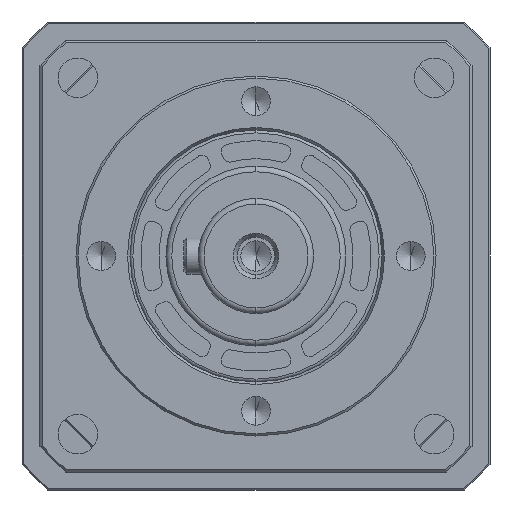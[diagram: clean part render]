
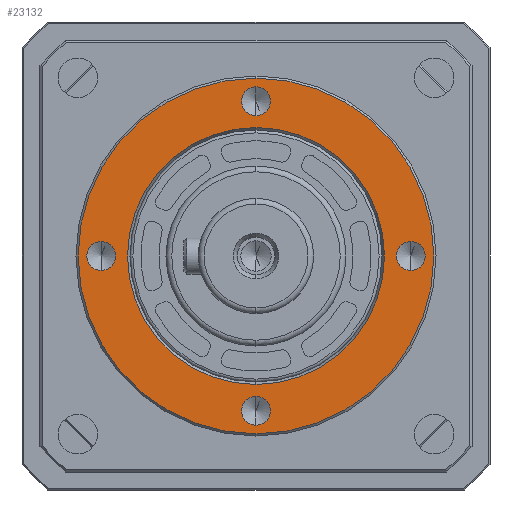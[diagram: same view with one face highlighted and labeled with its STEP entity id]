
A CAD part, left-side view. The second image highlights one B-rep face of the part: STEP entity #23132.
In plain terms, the highlighted planar face has unit normal (-1, 0, 0).
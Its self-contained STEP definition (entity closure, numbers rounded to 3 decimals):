
#176 = DIRECTION ( 'NONE',  ( 0., 0., 1. ) ) ;
#346 = DIRECTION ( 'NONE',  ( 0., 0., 1. ) ) ;
#467 = ORIENTED_EDGE ( 'NONE', *, *, #3664, .T. ) ;
#571 = CARTESIAN_POINT ( 'NONE',  ( -157., 0., 24.7 ) ) ;
#1081 = DIRECTION ( 'NONE',  ( -1., 0., 0. ) ) ;
#1199 = CIRCLE ( 'NONE', #2568, 2. ) ;
#1574 = VERTEX_POINT ( 'NONE', #9739 ) ;
#1722 = ORIENTED_EDGE ( 'NONE', *, *, #19967, .F. ) ;
#1727 = DIRECTION ( 'NONE',  ( 0., 0., 1. ) ) ;
#1879 = AXIS2_PLACEMENT_3D ( 'NONE', #3063, #1081, #11590 ) ;
#2024 = ORIENTED_EDGE ( 'NONE', *, *, #19419, .F. ) ;
#2391 = AXIS2_PLACEMENT_3D ( 'NONE', #11113, #11267, #2752 ) ;
#2568 = AXIS2_PLACEMENT_3D ( 'NONE', #15622, #10838, #26571 ) ;
#2752 = DIRECTION ( 'NONE',  ( 0., 0., 1. ) ) ;
#3063 = CARTESIAN_POINT ( 'NONE',  ( -157., 0., 21.5 ) ) ;
#3158 = DIRECTION ( 'NONE',  ( -1., 0., 0. ) ) ;
#3463 = CIRCLE ( 'NONE', #26110, 2. ) ;
#3664 = EDGE_CURVE ( 'NONE', #4152, #23936, #20959, .T. ) ;
#3926 = ORIENTED_EDGE ( 'NONE', *, *, #6706, .F. ) ;
#4051 = FACE_OUTER_BOUND ( 'NONE', #5848, .T. ) ;
#4152 = VERTEX_POINT ( 'NONE', #14003 ) ;
#4157 = CIRCLE ( 'NONE', #1879, 2. ) ;
#4190 = CARTESIAN_POINT ( 'NONE',  ( -157., 21.5, -2. ) ) ;
#4204 = FACE_BOUND ( 'NONE', #12712, .T. ) ;
#4353 = DIRECTION ( 'NONE',  ( 0., 0., 1. ) ) ;
#4406 = CARTESIAN_POINT ( 'NONE',  ( -157., -21.5, 0. ) ) ;
#4552 = ORIENTED_EDGE ( 'NONE', *, *, #24312, .T. ) ;
#4664 = DIRECTION ( 'NONE',  ( -1., 0., 0. ) ) ;
#4714 = DIRECTION ( 'NONE',  ( 1., 0., 0. ) ) ;
#4854 = AXIS2_PLACEMENT_3D ( 'NONE', #24184, #11276, #4353 ) ;
#5144 = DIRECTION ( 'NONE',  ( 0., 0., 1. ) ) ;
#5817 = CARTESIAN_POINT ( 'NONE',  ( -157., 0., 17.846 ) ) ;
#5848 = EDGE_LOOP ( 'NONE', ( #10182, #4552 ) ) ;
#6068 = CARTESIAN_POINT ( 'NONE',  ( -157., 21.5, 2. ) ) ;
#6168 = FACE_BOUND ( 'NONE', #22760, .T. ) ;
#6706 = EDGE_CURVE ( 'NONE', #21575, #27305, #1199, .T. ) ;
#6899 = ORIENTED_EDGE ( 'NONE', *, *, #9497, .F. ) ;
#6925 = EDGE_CURVE ( 'NONE', #27305, #21575, #3463, .T. ) ;
#6964 = ORIENTED_EDGE ( 'NONE', *, *, #11407, .T. ) ;
#7498 = AXIS2_PLACEMENT_3D ( 'NONE', #8684, #13085, #176 ) ;
#7512 = DIRECTION ( 'NONE',  ( -1., 0., 0. ) ) ;
#7569 = CIRCLE ( 'NONE', #4854, 24.7 ) ;
#7742 = CARTESIAN_POINT ( 'NONE',  ( -157., 0., -23.5 ) ) ;
#8216 = CARTESIAN_POINT ( 'NONE',  ( -157., -21.5, -2. ) ) ;
#8296 = FACE_BOUND ( 'NONE', #8551, .T. ) ;
#8551 = EDGE_LOOP ( 'NONE', ( #24878, #2024 ) ) ;
#8684 = CARTESIAN_POINT ( 'NONE',  ( -157., 21.5, 0. ) ) ;
#8755 = AXIS2_PLACEMENT_3D ( 'NONE', #15477, #4714, #10569 ) ;
#8762 = DIRECTION ( 'NONE',  ( 0., 0., 1. ) ) ;
#8868 = EDGE_CURVE ( 'NONE', #21476, #18083, #10936, .T. ) ;
#9266 = CARTESIAN_POINT ( 'NONE',  ( -157., 25., 0. ) ) ;
#9497 = EDGE_CURVE ( 'NONE', #11119, #1574, #4157, .T. ) ;
#9673 = CIRCLE ( 'NONE', #16904, 2. ) ;
#9739 = CARTESIAN_POINT ( 'NONE',  ( -157., 0., 23.5 ) ) ;
#10182 = ORIENTED_EDGE ( 'NONE', *, *, #26030, .T. ) ;
#10569 = DIRECTION ( 'NONE',  ( 0., 0., 1. ) ) ;
#10838 = DIRECTION ( 'NONE',  ( -1., 0., 0. ) ) ;
#10936 = CIRCLE ( 'NONE', #15884, 2. ) ;
#11101 = VERTEX_POINT ( 'NONE', #6068 ) ;
#11113 = CARTESIAN_POINT ( 'NONE',  ( -157., 21.5, 0. ) ) ;
#11119 = VERTEX_POINT ( 'NONE', #23222 ) ;
#11140 = CIRCLE ( 'NONE', #7498, 2. ) ;
#11267 = DIRECTION ( 'NONE',  ( -1., 0., 0. ) ) ;
#11276 = DIRECTION ( 'NONE',  ( -1., 0., 0. ) ) ;
#11407 = EDGE_CURVE ( 'NONE', #23936, #4152, #12354, .T. ) ;
#11483 = CARTESIAN_POINT ( 'NONE',  ( -157., 0., 0. ) ) ;
#11590 = DIRECTION ( 'NONE',  ( 0., 0., 1. ) ) ;
#12354 = CIRCLE ( 'NONE', #19545, 17.846 ) ;
#12703 = PLANE ( 'NONE',  #14325 ) ;
#12712 = EDGE_LOOP ( 'NONE', ( #1722, #19170 ) ) ;
#12843 = AXIS2_PLACEMENT_3D ( 'NONE', #4406, #4664, #23556 ) ;
#12948 = EDGE_LOOP ( 'NONE', ( #6964, #467 ) ) ;
#13085 = DIRECTION ( 'NONE',  ( -1., 0., 0. ) ) ;
#14003 = CARTESIAN_POINT ( 'NONE',  ( -157., 0., -17.846 ) ) ;
#14070 = CARTESIAN_POINT ( 'NONE',  ( -157., -21.5, 2. ) ) ;
#14325 = AXIS2_PLACEMENT_3D ( 'NONE', #9266, #20023, #346 ) ;
#14375 = EDGE_LOOP ( 'NONE', ( #27568, #6899 ) ) ;
#15402 = CARTESIAN_POINT ( 'NONE',  ( -157., 0., 21.5 ) ) ;
#15477 = CARTESIAN_POINT ( 'NONE',  ( -157., 0., 0. ) ) ;
#15622 = CARTESIAN_POINT ( 'NONE',  ( -157., 0., -21.5 ) ) ;
#15701 = DIRECTION ( 'NONE',  ( -1., 0., 0. ) ) ;
#15833 = AXIS2_PLACEMENT_3D ( 'NONE', #11483, #15701, #20099 ) ;
#15884 = AXIS2_PLACEMENT_3D ( 'NONE', #26958, #7512, #1727 ) ;
#16001 = VERTEX_POINT ( 'NONE', #571 ) ;
#16299 = DIRECTION ( 'NONE',  ( 0., 0., 1. ) ) ;
#16401 = CIRCLE ( 'NONE', #12843, 2. ) ;
#16904 = AXIS2_PLACEMENT_3D ( 'NONE', #15402, #25645, #8762 ) ;
#18083 = VERTEX_POINT ( 'NONE', #14070 ) ;
#18289 = VERTEX_POINT ( 'NONE', #4190 ) ;
#19170 = ORIENTED_EDGE ( 'NONE', *, *, #8868, .F. ) ;
#19330 = CARTESIAN_POINT ( 'NONE',  ( -157., 0., 0. ) ) ;
#19419 = EDGE_CURVE ( 'NONE', #18289, #11101, #20457, .T. ) ;
#19545 = AXIS2_PLACEMENT_3D ( 'NONE', #19330, #28018, #5144 ) ;
#19967 = EDGE_CURVE ( 'NONE', #18083, #21476, #16401, .T. ) ;
#20023 = DIRECTION ( 'NONE',  ( -1., 0., 0. ) ) ;
#20099 = DIRECTION ( 'NONE',  ( 0., 0., 1. ) ) ;
#20276 = EDGE_CURVE ( 'NONE', #1574, #11119, #9673, .T. ) ;
#20457 = CIRCLE ( 'NONE', #2391, 2. ) ;
#20901 = ORIENTED_EDGE ( 'NONE', *, *, #6925, .F. ) ;
#20959 = CIRCLE ( 'NONE', #8755, 17.846 ) ;
#21272 = CIRCLE ( 'NONE', #15833, 24.7 ) ;
#21476 = VERTEX_POINT ( 'NONE', #8216 ) ;
#21575 = VERTEX_POINT ( 'NONE', #7742 ) ;
#22760 = EDGE_LOOP ( 'NONE', ( #20901, #3926 ) ) ;
#23132 = ADVANCED_FACE ( 'NONE', ( #8296, #25607, #6168, #4204, #23477, #4051 ), #12703, .T. ) ;
#23222 = CARTESIAN_POINT ( 'NONE',  ( -157., 0., 19.5 ) ) ;
#23467 = EDGE_CURVE ( 'NONE', #11101, #18289, #11140, .T. ) ;
#23477 = FACE_BOUND ( 'NONE', #12948, .T. ) ;
#23556 = DIRECTION ( 'NONE',  ( 0., 0., 1. ) ) ;
#23936 = VERTEX_POINT ( 'NONE', #5817 ) ;
#24184 = CARTESIAN_POINT ( 'NONE',  ( -157., 0., 0. ) ) ;
#24312 = EDGE_CURVE ( 'NONE', #16001, #25590, #7569, .T. ) ;
#24878 = ORIENTED_EDGE ( 'NONE', *, *, #23467, .F. ) ;
#25119 = CARTESIAN_POINT ( 'NONE',  ( -157., 0., -19.5 ) ) ;
#25590 = VERTEX_POINT ( 'NONE', #26852 ) ;
#25607 = FACE_BOUND ( 'NONE', #14375, .T. ) ;
#25645 = DIRECTION ( 'NONE',  ( -1., 0., 0. ) ) ;
#26030 = EDGE_CURVE ( 'NONE', #25590, #16001, #21272, .T. ) ;
#26110 = AXIS2_PLACEMENT_3D ( 'NONE', #27110, #3158, #16299 ) ;
#26571 = DIRECTION ( 'NONE',  ( 0., 0., 1. ) ) ;
#26852 = CARTESIAN_POINT ( 'NONE',  ( -157., 0., -24.7 ) ) ;
#26958 = CARTESIAN_POINT ( 'NONE',  ( -157., -21.5, 0. ) ) ;
#27110 = CARTESIAN_POINT ( 'NONE',  ( -157., 0., -21.5 ) ) ;
#27305 = VERTEX_POINT ( 'NONE', #25119 ) ;
#27568 = ORIENTED_EDGE ( 'NONE', *, *, #20276, .F. ) ;
#28018 = DIRECTION ( 'NONE',  ( 1., 0., 0. ) ) ;
